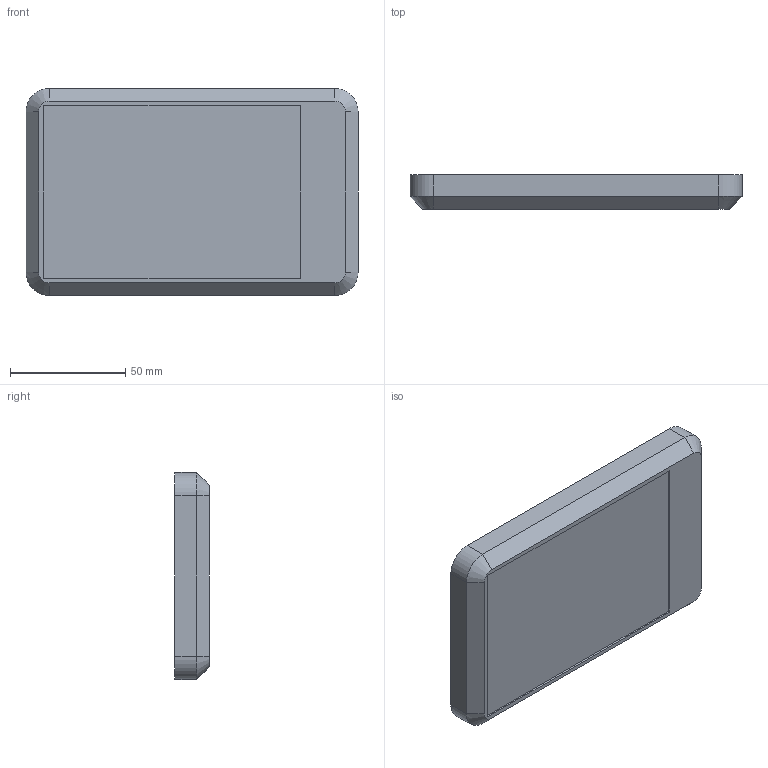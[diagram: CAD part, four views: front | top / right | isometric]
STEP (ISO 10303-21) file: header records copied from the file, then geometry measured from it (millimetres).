
FILE_DESCRIPTION (( 'STEP AP214' ), '1' );
FILE_NAME ('Tapa PP80.STEP', '2018-01-16T01:56:10', ( 'aaa' ), ( '' ), 'SwSTEP 2.0', 'SolidWorks 2013', '' );
FILE_SCHEMA (( 'AUTOMOTIVE_DESIGN' ));
Length unit declared in the file: millimetre
Products named in the file (1): Tapa PP80
Bounding box: 144 x 15 x 89.8 mm (x, y, z)
Volume: 35124.6 mm3; surface area: 38099 mm2
Topology: 1 solids, 1 shells, 115 faces, 248 edges, 160 vertices
Faces by surface type: cylinder 56, plane 51, cone 8
Entity records: 3243 total; most frequent: DIRECTION 600, CARTESIAN_POINT 524, ORIENTED_EDGE 496, EDGE_CURVE 248, AXIS2_PLACEMENT_3D 236, VERTEX_POINT 160, EDGE_LOOP 140, LINE 128
